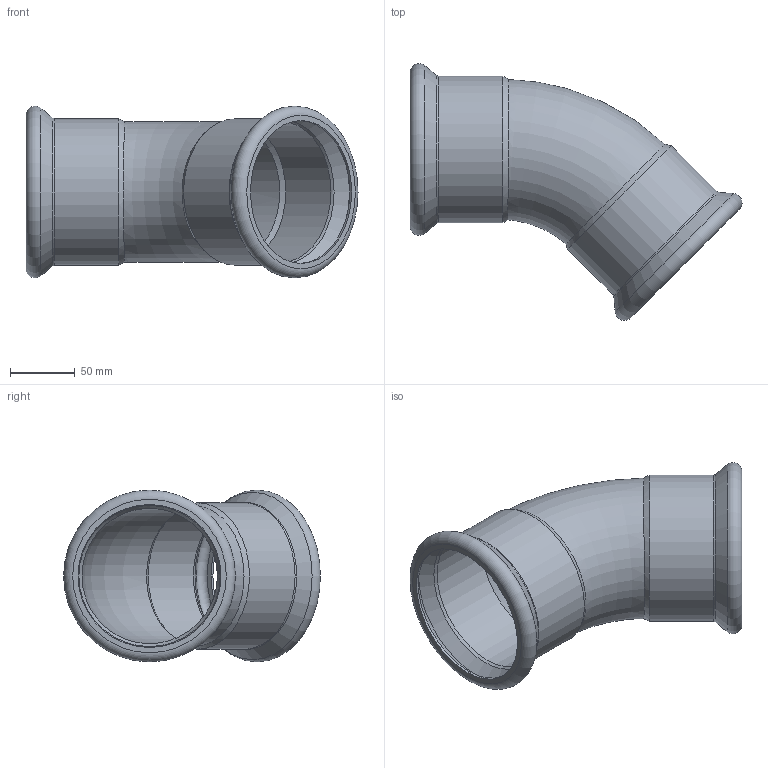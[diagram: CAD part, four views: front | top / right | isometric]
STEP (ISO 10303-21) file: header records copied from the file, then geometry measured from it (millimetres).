
FILE_DESCRIPTION((''),'2;1');
FILE_NAME('G:\Nirosan-Schmiedefeld\Technics\CAD\Bauteile VA\108\69041108(1).stp','2010-06-24T14:12:47',('herberg'),(''),'Autodesk Inventor 2009','Autodesk Inventor 2009','');
FILE_SCHEMA(('AUTOMOTIVE_DESIGN { 1 0 10303 214 1 1 1 1 }'));
Length unit declared in the file: millimetre
Products named in the file (1): 69041108(1)
Bounding box: 255.51 x 197.61 x 132.2 mm (x, y, z)
Volume: 184590.5 mm3; surface area: 185980.5 mm2
Topology: 1 solids, 1 shells, 28 faces, 54 edges, 30 vertices
Faces by surface type: cone 8, cylinder 6, torus 6, plane 4, bspline 4
Full cylindrical faces by diameter (mm): 108.7 x2, 110 x2, 112.7 x2
Entity records: 956 total; most frequent: CARTESIAN_POINT 475, DIRECTION 98, ORIENTED_EDGE 56, EDGE_LOOP 56, AXIS2_PLACEMENT_3D 49, VERTEX_POINT 28, EDGE_CURVE 28, FACE_OUTER_BOUND 28
